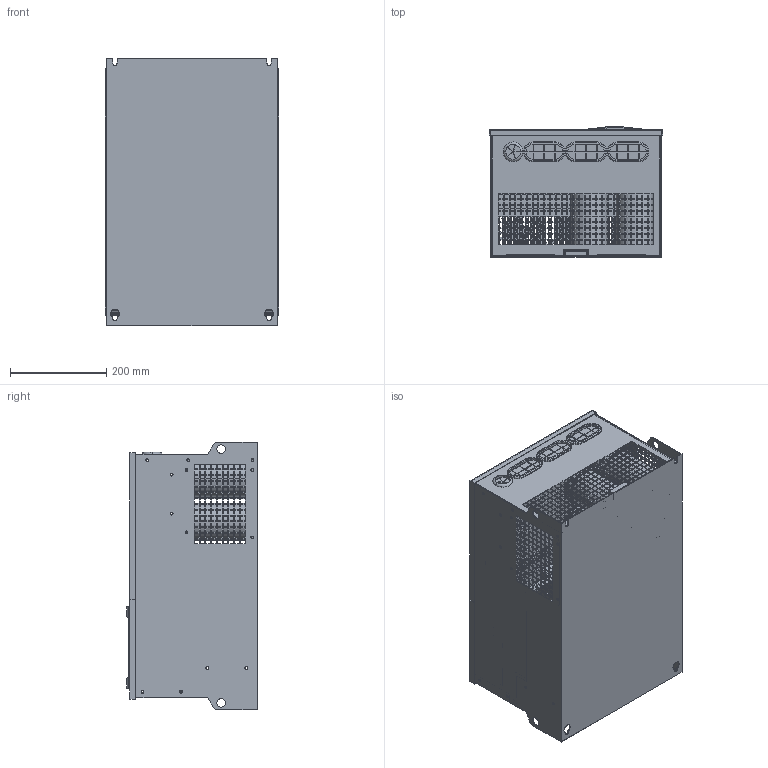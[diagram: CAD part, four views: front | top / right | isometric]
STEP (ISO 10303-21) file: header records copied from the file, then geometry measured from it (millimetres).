
FILE_DESCRIPTION((''),'2;1');
FILE_NAME('C5-150906_ASM','2015-09-06T',('Administrator'),(''),'PRO/ENGINEER BY PARAMETRIC TECHNOLOGY CORPORATION, 2013150','PRO/ENGINEER BY PARAMETRIC TECHNOLOGY CORPORATION, 2013150','');
FILE_SCHEMA(('CONFIG_CONTROL_DESIGN'));
Products named in the file (50): 302-TOP_96; 305-TOP1_54; 307-BRACKT-CAP-SUPPORT2_133; 310-BRACKET-TOP_84; 311-BRACKET-BOTTOM_147; FAN_12038_17; FAN-9225_4; 101-HEATSINK_280; CDE6800_16; X4007-CAP-PACK-6800-1_2; MANIFOLD_SOLID_BREP_128324; MANIFOLD_SOLID_BREP_134172; BRACKET_ASM_3_ASM; ASM0001-BRACK_ASM_6_ASM; X8021-35_14; X8017_35_1; 8200-CECTN_4; MANIFOLD_SOLID_BREP_191428; MANIFOLD_SOLID_BREP_197987; MANIFOLD_SOLID_BREP_198244; MANIFOLD_SOLID_BREP_198501; MANIFOLD_SOLID_BREP_198870; MANIFOLD_SOLID_BREP_199063; MANIFOLD_SOLID_BREP_199320; MANIFOLD_SOLID_BREP_200277; MANIFOLD_SOLID_BREP_200534; MANIFOLD_SOLID_BREP_200791; MANIFOLD_SOLID_BREP_201048; MANIFOLD_SOLID_BREP_201305; MANIFOLD_SOLID_BREP_201562; MANIFOLD_SOLID_BREP_201819; MANIFOLD_SOLID_BREP_202076; MANIFOLD_SOLID_BREP_202333; MANIFOLD_SOLID_BREP_202590; MANIFOLD_SOLID_BREP_202847; MANIFOLD_SOLID_BREP_203216; MANIFOLD_SOLID_BREP_203585; MANIFOLD_SOLID_BREP_203778; MANIFOLD_SOLID_BREP_203971; MANIFOLD_SOLID_BREP_204228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
Assembly tree (60 placements, depth 5):
  C5-150906_ASM
    C5Y_ASM_1917_ASM
      302-TOP_96
      305-TOP1_54
      307-BRACKT-CAP-SUPPORT2_133
      310-BRACKET-TOP_84
      311-BRACKET-BOTTOM_147
      FAN_12038_17  x2
      FAN-9225_4
      101-HEATSINK_280
      CDE6800_16  x3
      X4007-CAP-PACK-6800-1_2  x7
      ASM0001-BRACK_ASM_6_ASM
        BRACKET_ASM_3_ASM
          MANIFOLD_SOLID_BREP_128324
          MANIFOLD_SOLID_BREP_134172
      X8021-35_14  x3
      X8017_35_1
      8200-CECTN_4
      301-BOTTOM-E2000_9_ASM
        MANIFOLD_SOLID_BREP_191428
        MANIFOLD_SOLID_BREP_197987
        MANIFOLD_SOLID_BREP_198244
        MANIFOLD_SOLID_BREP_198501
        MANIFOLD_SOLID_BREP_198870
        MANIFOLD_SOLID_BREP_199063
        MANIFOLD_SOLID_BREP_199320
        MANIFOLD_SOLID_BREP_200277
        MANIFOLD_SOLID_BREP_200534
        MANIFOLD_SOLID_BREP_200791
        MANIFOLD_SOLID_BREP_201048
        MANIFOLD_SOLID_BREP_201305
        MANIFOLD_SOLID_BREP_201562
        MANIFOLD_SOLID_BREP_201819
        MANIFOLD_SOLID_BREP_202076
        MANIFOLD_SOLID_BREP_202333
        MANIFOLD_SOLID_BREP_202590
        MANIFOLD_SOLID_BREP_202847
        MANIFOLD_SOLID_BREP_203216
        MANIFOLD_SOLID_BREP_203585
        MANIFOLD_SOLID_BREP_203778
        MANIFOLD_SOLID_BREP_203971
        MANIFOLD_SOLID_BREP_204228
        MANIFOLD_SOLID_BREP_204485
        MANIFOLD_SOLID_BREP_205862
        MANIFOLD_SOLID_BREP_206475
        MANIFOLD_SOLID_BREP_206732
        MANIFOLD_SOLID_BREP_206989
        MANIFOLD_SOLID_BREP_207246
        MANIFOLD_SOLID_BREP_207503
Bounding box: 360 x 271.28 x 555 mm (x, y, z)
Volume: 7783923.2 mm3; surface area: 4888777.5 mm2
Topology: 56 solids, 67 shells, 6429 faces, 19221 edges, 12721 vertices
Faces by surface type: plane 4477, cylinder 1269, torus 292, cone 221, bspline 126, sphere 24, extrusion 20
Entity records: 204881 total; most frequent: CARTESIAN_POINT 36457, ORIENTED_EDGE 29470, DIRECTION 26455, EDGE_CURVE 14769, VECTOR 12173, LINE 12153, VERTEX_POINT 9747, PRESENTATION_STYLE_ASSIGNMENT 8103
